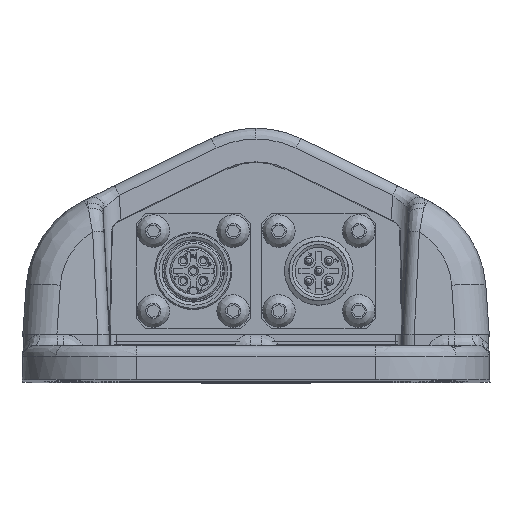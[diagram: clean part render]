
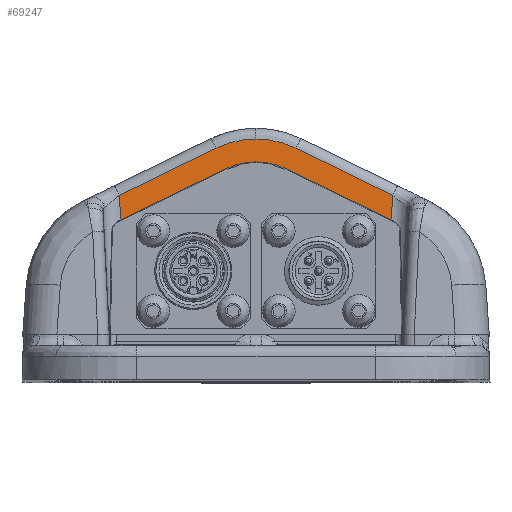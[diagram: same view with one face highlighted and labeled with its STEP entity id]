
A CAD part, top view. The second image highlights one B-rep face of the part: STEP entity #69247.
In plain terms, the highlighted planar face has unit normal (0, 0.052, 0.999).
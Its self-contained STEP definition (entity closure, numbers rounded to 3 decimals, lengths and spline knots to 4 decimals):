
#1522=ELLIPSE('',#73664,0.4775,0.4769);
#2508=B_SPLINE_CURVE_WITH_KNOTS('',3,(#126352,#126353,#126354,#126355,#126356,
#126357,#126358),.UNSPECIFIED.,.F.,.F.,(4,3,4),(0.,0.2269,0.4538),
 .UNSPECIFIED.);
#2525=B_SPLINE_CURVE_WITH_KNOTS('',3,(#127140,#127141,#127142,#127143,#127144,
#127145,#127146),.UNSPECIFIED.,.F.,.F.,(4,3,4),(5.8294,6.0563,
6.2832),.UNSPECIFIED.);
#4677=PLANE('',#73671);
#7404=FACE_OUTER_BOUND('',#11546,.T.);
#11546=EDGE_LOOP('',(#48967,#48968,#48969,#48970,#48971,#48972,#48973,#48974,
#48975));
#16071=LINE('',#127111,#22307);
#16075=LINE('',#127122,#22311);
#16080=LINE('',#127137,#22316);
#16081=LINE('',#127139,#22317);
#16082=LINE('',#127148,#22318);
#16083=LINE('',#127149,#22319);
#22307=VECTOR('',#80643,39.3701);
#22311=VECTOR('',#80655,39.3701);
#22316=VECTOR('',#80670,39.3701);
#22317=VECTOR('',#80671,39.3701);
#22318=VECTOR('',#80672,39.3701);
#22319=VECTOR('',#80673,39.3701);
#30132=VERTEX_POINT('',#126350);
#30133=VERTEX_POINT('',#126351);
#30216=VERTEX_POINT('',#127108);
#30217=VERTEX_POINT('',#127110);
#30218=VERTEX_POINT('',#127114);
#30219=VERTEX_POINT('',#127118);
#30225=VERTEX_POINT('',#127136);
#30226=VERTEX_POINT('',#127138);
#30227=VERTEX_POINT('',#127147);
#37188=EDGE_CURVE('',#30132,#30133,#2508,.T.);
#37288=EDGE_CURVE('',#30216,#30217,#16071,.T.);
#37290=EDGE_CURVE('',#30217,#30218,#1522,.T.);
#37294=EDGE_CURVE('',#30218,#30219,#16075,.T.);
#37301=EDGE_CURVE('',#30216,#30225,#16080,.T.);
#37302=EDGE_CURVE('',#30225,#30226,#16081,.T.);
#37303=EDGE_CURVE('',#30226,#30132,#2525,.T.);
#37304=EDGE_CURVE('',#30133,#30227,#16082,.T.);
#37305=EDGE_CURVE('',#30227,#30219,#16083,.T.);
#48967=ORIENTED_EDGE('',*,*,#37301,.T.);
#48968=ORIENTED_EDGE('',*,*,#37302,.T.);
#48969=ORIENTED_EDGE('',*,*,#37303,.T.);
#48970=ORIENTED_EDGE('',*,*,#37188,.T.);
#48971=ORIENTED_EDGE('',*,*,#37304,.T.);
#48972=ORIENTED_EDGE('',*,*,#37305,.T.);
#48973=ORIENTED_EDGE('',*,*,#37294,.F.);
#48974=ORIENTED_EDGE('',*,*,#37290,.F.);
#48975=ORIENTED_EDGE('',*,*,#37288,.F.);
#69247=ADVANCED_FACE('',(#7404),#4677,.F.);
#73664=AXIS2_PLACEMENT_3D('',#127115,#80647,#80648);
#73671=AXIS2_PLACEMENT_3D('',#127135,#80668,#80669);
#80643=DIRECTION('',(-0.899,0.438,-0.023));
#80647=DIRECTION('center_axis',(0.,0.052,
0.999));
#80648=DIRECTION('ref_axis',(0.,0.999,-0.052));
#80655=DIRECTION('',(-0.899,-0.438,0.023));
#80668=DIRECTION('center_axis',(0.,-0.052,
-0.999));
#80669=DIRECTION('ref_axis',(0.,0.999,-0.052));
#80670=DIRECTION('',(0.051,0.997,-0.052));
#80671=DIRECTION('',(-0.899,0.438,-0.023));
#80672=DIRECTION('',(-0.899,-0.438,0.023));
#80673=DIRECTION('',(0.051,-0.997,0.052));
#126350=CARTESIAN_POINT('',(0.,1.4248,4.8672));
#126351=CARTESIAN_POINT('',(-0.2761,1.3611,4.8705));
#126352=CARTESIAN_POINT('Ctrl Pts',(0.,1.4248,
4.8672));
#126353=CARTESIAN_POINT('Ctrl Pts',(-0.0476,1.4248,
4.8672));
#126354=CARTESIAN_POINT('Ctrl Pts',(-0.0953,1.4194,
4.8675));
#126355=CARTESIAN_POINT('Ctrl Pts',(-0.1417,1.4087,
4.868));
#126356=CARTESIAN_POINT('Ctrl Pts',(-0.1881,1.398,
4.8686));
#126357=CARTESIAN_POINT('Ctrl Pts',(-0.2333,1.382,
4.8694));
#126358=CARTESIAN_POINT('Ctrl Pts',(-0.2761,1.3611,4.8705));
#127108=CARTESIAN_POINT('',(0.9337,0.8659,4.8965));
#127110=CARTESIAN_POINT('',(0.2089,1.219,4.878));
#127111=CARTESIAN_POINT('',(0.2041,1.2214,4.8778));
#127114=CARTESIAN_POINT('',(-0.2089,1.219,4.878));
#127115=CARTESIAN_POINT('Origin',(0.,0.7903,
4.9004));
#127118=CARTESIAN_POINT('',(-0.9337,0.8659,4.8965));
#127122=CARTESIAN_POINT('',(-0.9875,0.8397,4.8978));
#127135=CARTESIAN_POINT('Origin',(-1.009,0.0787,
4.9377));
#127136=CARTESIAN_POINT('',(0.9424,1.0361,4.8876));
#127137=CARTESIAN_POINT('',(0.9441,1.0683,4.8859));
#127138=CARTESIAN_POINT('',(0.2761,1.3611,4.8705));
#127139=CARTESIAN_POINT('',(0.2777,1.3603,4.8706));
#127140=CARTESIAN_POINT('Ctrl Pts',(0.2761,1.3611,4.8705));
#127141=CARTESIAN_POINT('Ctrl Pts',(0.2333,1.382,
4.8694));
#127142=CARTESIAN_POINT('Ctrl Pts',(0.1881,1.398,
4.8686));
#127143=CARTESIAN_POINT('Ctrl Pts',(0.1417,1.4087,
4.868));
#127144=CARTESIAN_POINT('Ctrl Pts',(0.0953,1.4194,
4.8675));
#127145=CARTESIAN_POINT('Ctrl Pts',(0.0476,1.4248,
4.8672));
#127146=CARTESIAN_POINT('Ctrl Pts',(0.,1.4248,
4.8672));
#127147=CARTESIAN_POINT('',(-0.9424,1.0361,4.8876));
#127148=CARTESIAN_POINT('',(-0.9137,1.0501,4.8868));
#127149=CARTESIAN_POINT('',(-0.8934,0.0847,4.9374));
